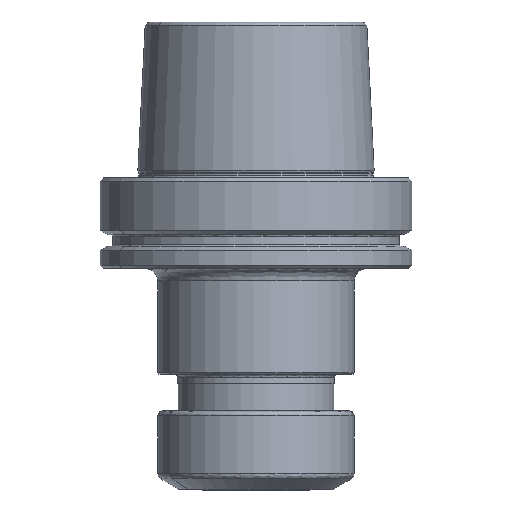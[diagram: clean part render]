
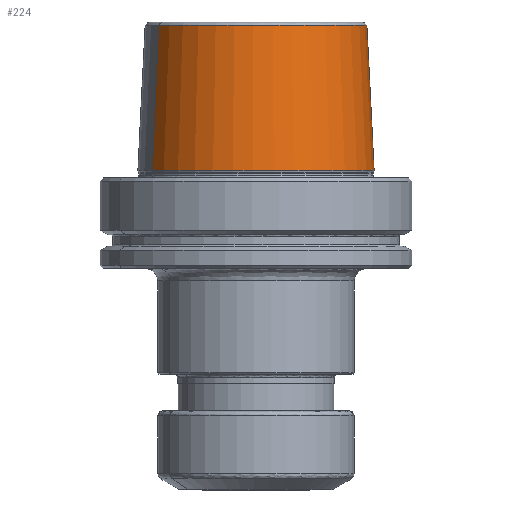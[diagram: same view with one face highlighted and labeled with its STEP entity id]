
A CAD part, left-side view. The second image highlights one B-rep face of the part: STEP entity #224.
In plain terms, the highlighted face is a revolution surface.
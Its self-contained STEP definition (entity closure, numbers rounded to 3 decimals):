
#162=AXIS2_PLACEMENT_3D('Circle Axis2P3D',#160,#161,$) ;
#205=AXIS2_PLACEMENT_3D('Circle Axis2P3D',#203,#204,$) ;
#157=CARTESIAN_POINT('Vertex',(-17.046,31.202,48.919)) ;
#160=CARTESIAN_POINT('Axis2P3D Location',(0.,0.,48.919)) ;
#164=CARTESIAN_POINT('Vertex',(17.046,-31.202,48.919)) ;
#183=CARTESIAN_POINT('Control Point',(0.,37.875,2.5)) ;
#184=CARTESIAN_POINT('Control Point',(0.,37.411,11.784)) ;
#185=CARTESIAN_POINT('Control Point',(0.,36.947,21.067)) ;
#186=CARTESIAN_POINT('Control Point',(0.,36.482,30.351)) ;
#187=CARTESIAN_POINT('Control Point',(0.,36.018,39.635)) ;
#188=CARTESIAN_POINT('Control Point',(0.,35.554,48.919)) ;
#189=CARTESIAN_POINT('Axis1P Location',(0.,0.,-24.902)) ;
#194=CARTESIAN_POINT('Control Point',(-18.158,33.238,2.5)) ;
#195=CARTESIAN_POINT('Control Point',(-17.936,32.831,11.784)) ;
#196=CARTESIAN_POINT('Control Point',(-17.713,32.424,21.067)) ;
#197=CARTESIAN_POINT('Control Point',(-17.491,32.016,30.351)) ;
#198=CARTESIAN_POINT('Control Point',(-17.268,31.609,39.635)) ;
#199=CARTESIAN_POINT('Control Point',(-17.046,31.202,48.919)) ;
#200=CARTESIAN_POINT('Vertex',(-18.158,33.238,2.5)) ;
#203=CARTESIAN_POINT('Axis2P3D Location',(0.,0.,2.5)) ;
#207=CARTESIAN_POINT('Vertex',(18.158,-33.238,2.5)) ;
#211=CARTESIAN_POINT('Control Point',(18.158,-33.238,2.5)) ;
#212=CARTESIAN_POINT('Control Point',(17.936,-32.831,11.784)) ;
#213=CARTESIAN_POINT('Control Point',(17.713,-32.424,21.067)) ;
#214=CARTESIAN_POINT('Control Point',(17.491,-32.016,30.351)) ;
#215=CARTESIAN_POINT('Control Point',(17.268,-31.609,39.635)) ;
#216=CARTESIAN_POINT('Control Point',(17.046,-31.202,48.919)) ;
#161=DIRECTION('Axis2P3D Direction',(0.,0.,1.)) ;
#190=DIRECTION('Axis1P Direction',(0.,0.,1.)) ;
#204=DIRECTION('Axis2P3D Direction',(0.,0.,1.)) ;
#191=AXIS1_PLACEMENT('Revolution Surface Axis1P',#189,#190) ;
#219=ORIENTED_EDGE('',*,*,#166,.F.) ;
#220=ORIENTED_EDGE('',*,*,#202,.T.) ;
#221=ORIENTED_EDGE('',*,*,#209,.T.) ;
#222=ORIENTED_EDGE('',*,*,#217,.F.) ;
#224=ADVANCED_FACE('NOCUT',(#223),#192,.T.) ;
#182=B_SPLINE_CURVE_WITH_KNOTS('',5,(#183,#184,#185,#186,#187,#188),.UNSPECIFIED.,.F.,.U.,(6,6),(242.771,289.248),.UNSPECIFIED.) ;
#193=B_SPLINE_CURVE_WITH_KNOTS('',5,(#194,#195,#196,#197,#198,#199),.UNSPECIFIED.,.F.,.U.,(6,6),(242.771,289.248),.UNSPECIFIED.) ;
#210=B_SPLINE_CURVE_WITH_KNOTS('',5,(#211,#212,#213,#214,#215,#216),.UNSPECIFIED.,.F.,.U.,(6,6),(242.771,289.248),.UNSPECIFIED.) ;
#163=CIRCLE('generated circle',#162,35.554) ;
#206=CIRCLE('generated circle',#205,37.875) ;
#166=EDGE_CURVE('',#158,#165,#163,.T.) ;
#202=EDGE_CURVE('',#158,#201,#193,.F.) ;
#209=EDGE_CURVE('',#201,#208,#206,.T.) ;
#217=EDGE_CURVE('',#165,#208,#210,.F.) ;
#218=EDGE_LOOP('',(#219,#220,#221,#222)) ;
#223=FACE_OUTER_BOUND('',#218,.T.) ;
#192=SURFACE_OF_REVOLUTION('Surface of Revolution',#182,#191) ;
#158=VERTEX_POINT('',#157) ;
#165=VERTEX_POINT('',#164) ;
#201=VERTEX_POINT('',#200) ;
#208=VERTEX_POINT('',#207) ;
